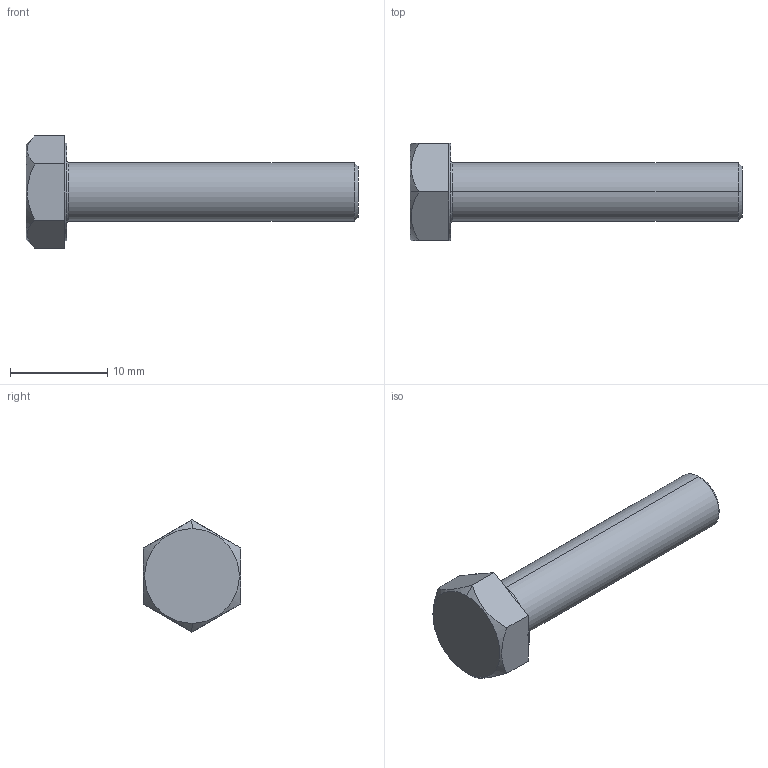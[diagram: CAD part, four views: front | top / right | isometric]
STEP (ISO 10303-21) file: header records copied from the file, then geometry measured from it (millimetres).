
FILE_DESCRIPTION (( 'STEP AP203' ), '1' );
FILE_NAME ('LGN-TD-M6x30.STEP', '2026-08-14T03:57:00', ( '' ), ( '' ), 'SwSTEP 2.0', 'SolidWorks 2020', '' );
FILE_SCHEMA (( 'CONFIG_CONTROL_DESIGN' ));
Length unit declared in the file: millimetre
Products named in the file (1): LGN-TD-M6x30
Bounding box: 34.2 x 10 x 11.55 mm (x, y, z)
Volume: 1205.9 mm3; surface area: 868.7 mm2
Topology: 1 solids, 1 shells, 25 faces, 54 edges, 32 vertices
Faces by surface type: plane 15, cone 4, cylinder 4, torus 2
Entity records: 809 total; most frequent: CARTESIAN_POINT 182, DIRECTION 122, ORIENTED_EDGE 108, EDGE_CURVE 54, AXIS2_PLACEMENT_3D 48, VERTEX_POINT 32, LINE 26, EDGE_LOOP 26
